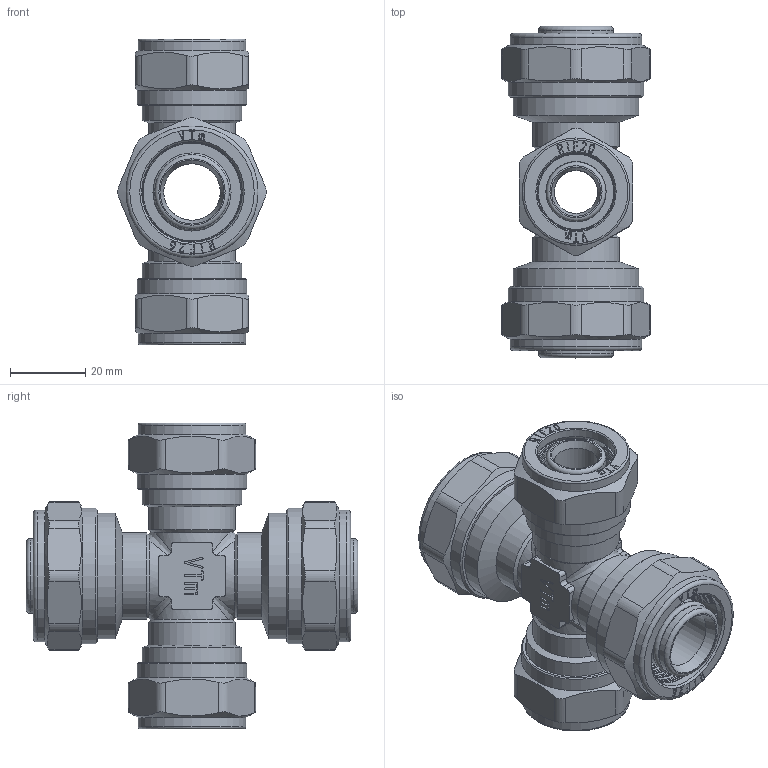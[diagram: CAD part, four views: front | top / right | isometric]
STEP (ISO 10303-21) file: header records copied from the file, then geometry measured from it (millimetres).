
FILE_DESCRIPTION(('STEP AP203'), '1');
FILE_NAME('VTm.341.N.262026', '', ('UNSPECIFIED'), ('UNSPECIFIED'), 'C3D Converter', 'C3D Toolkit', '');
FILE_SCHEMA(('CONFIG_CONTROL_DESIGN'));
Length unit declared in the file: millimetre
Products named in the file (1): ВР.302635.090.000 СБ
Bounding box: 39.39 x 88 x 81.06 mm (x, y, z)
Volume: 61357.2 mm3; surface area: 42823.1 mm2
Topology: 1 solids, 1 shells, 1343 faces, 3685 edges, 2429 vertices
Faces by surface type: extrusion 558, plane 454, cylinder 163, torus 112, cone 52, bspline 4
Full cylindrical faces by diameter (mm): 11.5 x2, 15 x1, 15.8 x8, 15.9 x2, 17.4 x8, 19.8 x10, 20 x2, 20.1 x2, 20.2 x2, 20.7 x2, 23 x4, 24.118 x2, 26.2 x2, 26.441 x2, 26.7 x2, 28.5 x2, 29 x2, 30.292 x2, 33.249 x2, 35 x2, 36 x2
Entity records: 49715 total; most frequent: CARTESIAN_POINT 18941, ORIENTED_EDGE 7046, DIRECTION 4524, EDGE_CURVE 3523, VERTEX_POINT 2429, VECTOR 2126, B_SPLINE_CURVE_WITH_KNOTS 2016, EDGE_LOOP 1600
